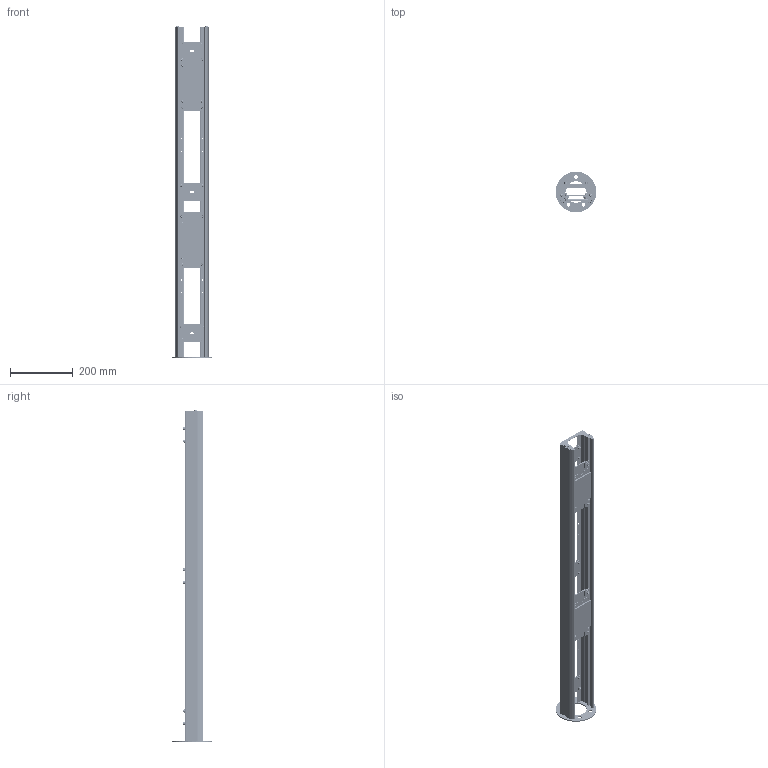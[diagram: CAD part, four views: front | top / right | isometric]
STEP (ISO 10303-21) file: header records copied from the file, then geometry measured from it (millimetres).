
FILE_DESCRIPTION(/* description */ (''),/* implementation_level */ '2;1');
FILE_NAME(/* name */ '0001A__2_INDIPENDENT_MIRRORS_1050mm.stp',/* time_stamp */ '2025-11-26T15:09:12+01:00',/* author */ (''),/* organization */ (''),/* preprocessor_version */ 'ST-DEVELOPER v20',/* originating_system */ 'SIEMENS PLM Software NX2412.4001',/* authorisation */ '');
FILE_SCHEMA (('AP203_CONFIGURATION_CONTROLLED_3D_DESIGN_OF_MECHANICAL_PARTS_AND_ASSEMBLIES_MIM_LF { 1 0 10303 403 2 1 2}'));
Products named in the file (1): AS007806_objects
Bounding box: 130 x 130 x 1058.25 mm (x, y, z)
Volume: 3951404.3 mm3; surface area: 4043228.9 mm2
Topology: 169 solids, 169 shells, 6753 faces, 18180 edges, 11817 vertices
Faces by surface type: plane 3532, cylinder 1895, cone 1204, torus 86, bspline 32, sphere 4
Full cylindrical faces by diameter (mm): 0.1 x2, 3.3 x6, 3.838 x6, 4.2 x20, 4.3 x6, 4.826 x128, 5 x196, 5.2 x16, 5.25 x2, 5.3 x12, 5.5 x40, 5.6 x12, 5.795 x28, 7 x26, 7.2 x4, 8.5 x28, 9 x14, 10 x12, 12 x7, 15 x8, 68 x1, 130 x1
Entity records: 268511 total; most frequent: CARTESIAN_POINT 95872, DIRECTION 36828, ORIENTED_EDGE 33996, EDGE_CURVE 16998, AXIS2_PLACEMENT_3D 14070, VERTEX_POINT 11440, LINE 8688, VECTOR 8688
